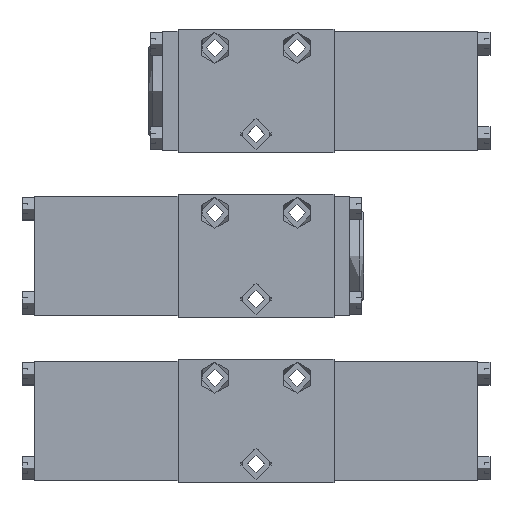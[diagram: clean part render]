
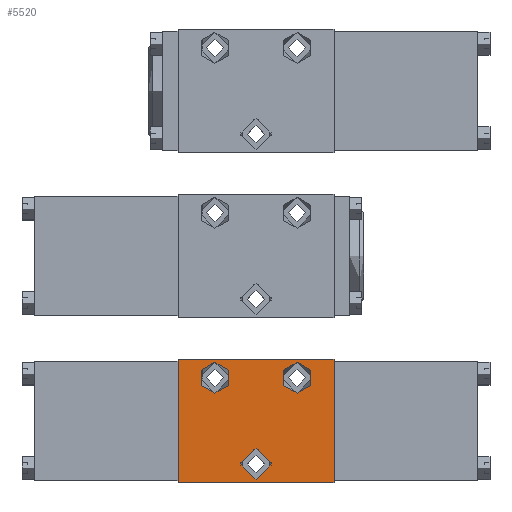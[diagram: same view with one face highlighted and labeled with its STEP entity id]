
A CAD part, top view. The second image highlights one B-rep face of the part: STEP entity #5520.
In plain terms, the highlighted planar face has unit normal (0, 0, 1).
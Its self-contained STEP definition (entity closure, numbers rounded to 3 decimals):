
#5520=ADVANCED_FACE('', (#5530,#5540,#5550,#5560), #5570, .T.);
#26860=AXIS2_PLACEMENT_3D('Ax2Pl3d', #26870, #26880, #26890);
#26900=AXIS2_PLACEMENT_3D('Ax2Pl3d', #26910, #26920, #26930);
#26940=AXIS2_PLACEMENT_3D('Ax2Pl3d', #26950, #26960, #26970);
#26980=AXIS2_PLACEMENT_3D('Ax2Pl3d', #26990, #27000, #27010);
#82510=CARTESIAN_POINT('', (38.,30.,30.));
#82520=CARTESIAN_POINT('', (38.,30.,30.));
#82530=CARTESIAN_POINT('', (38.,0.,30.));
#82660=CARTESIAN_POINT('', (0.,0.,30.));
#82670=CARTESIAN_POINT('', (0.,0.,30.));
#82680=CARTESIAN_POINT('', (0.,30.,30.));
#26870=CARTESIAN_POINT('HicPkt', (0.,0.,
30.));
#82810=CARTESIAN_POINT('', (38.,0.,30.));
#82820=CARTESIAN_POINT('', (0.,30.,30.));
#26910=CARTESIAN_POINT('HicPkt', (29.,25.5,30.));
#82830=CARTESIAN_POINT('', (29.,29.25,30.));
#26950=CARTESIAN_POINT('HicPkt', (9.,25.5,30.));
#82840=CARTESIAN_POINT('', (9.,29.25,30.));
#26990=CARTESIAN_POINT('HicPkt', (19.,4.5,30.));
#82850=CARTESIAN_POINT('', (19.,8.25,30.));
#91310=CIRCLE('Circle', #26900, 3.75);
#91320=CIRCLE('Circle', #26940, 3.75);
#91330=CIRCLE('Circle', #26980, 3.75);
#125430=DIRECTION('', (0.,1.,0.));
#125460=DIRECTION('', (0.,-1.,0.));
#26880=DIRECTION('Axis', (0.,0.,1.));
#26890=DIRECTION('RefDirection', (1.,0.,0.));
#125490=DIRECTION('', (1.,0.,0.));
#125500=DIRECTION('', (-1.,0.,0.));
#26920=DIRECTION('Axis', (0.,0.,1.));
#26930=DIRECTION('RefDirection', (1.,0.,0.));
#26960=DIRECTION('Axis', (0.,0.,1.));
#26970=DIRECTION('RefDirection', (1.,0.,0.));
#27000=DIRECTION('Axis', (0.,0.,1.));
#27010=DIRECTION('RefDirection', (1.,0.,0.));
#134480=EDGE_CURVE('', #134490, #134460, #134500, .T.);
#134750=EDGE_CURVE('', #134760, #134730, #134770, .T.);
#135010=EDGE_CURVE('', #134730, #134490, #135020, .T.);
#135030=EDGE_CURVE('', #134460, #134760, #135040, .T.);
#135050=EDGE_CURVE('', #135060, #135060, #91310, .T.);
#135070=EDGE_CURVE('', #135080, #135080, #91320, .T.);
#135090=EDGE_CURVE('', #135100, #135100, #91330, .T.);
#154910=EDGE_LOOP('Edge_loop', (#154920,#154930,#154940,#154950));
#154960=EDGE_LOOP('Edge_loop', (#154970));
#154980=EDGE_LOOP('Edge_loop', (#154990));
#155000=EDGE_LOOP('Edge_loop', (#155010));
#5540=FACE_BOUND('', #154960, .T.);
#5550=FACE_BOUND('', #154980, .T.);
#5560=FACE_BOUND('', #155000, .T.);
#5530=FACE_OUTER_BOUND('Face_outer_bound', #154910, .T.);
#134500=LINE('Line', #82520, #186170);
#134770=LINE('Line', #82670, #186200);
#135020=LINE('Line', #82810, #186230);
#135040=LINE('Line', #82820, #186240);
#154920=ORIENTED_EDGE('', *, *, #134750, .T.);
#154930=ORIENTED_EDGE('', *, *, #135010, .T.);
#154940=ORIENTED_EDGE('', *, *, #134480, .T.);
#154950=ORIENTED_EDGE('', *, *, #135030, .T.);
#154970=ORIENTED_EDGE('', *, *, #135050, .F.);
#154990=ORIENTED_EDGE('', *, *, #135070, .F.);
#155010=ORIENTED_EDGE('', *, *, #135090, .F.);
#5570=PLANE('Plane', #26860);
#186170=VECTOR('', #125430, 30.);
#186200=VECTOR('', #125460, 30.);
#186230=VECTOR('', #125490, 38.);
#186240=VECTOR('', #125500, 38.);
#134460=VERTEX_POINT('', #82510);
#134490=VERTEX_POINT('', #82530);
#134730=VERTEX_POINT('', #82660);
#134760=VERTEX_POINT('', #82680);
#135060=VERTEX_POINT('', #82830);
#135080=VERTEX_POINT('', #82840);
#135100=VERTEX_POINT('', #82850);
